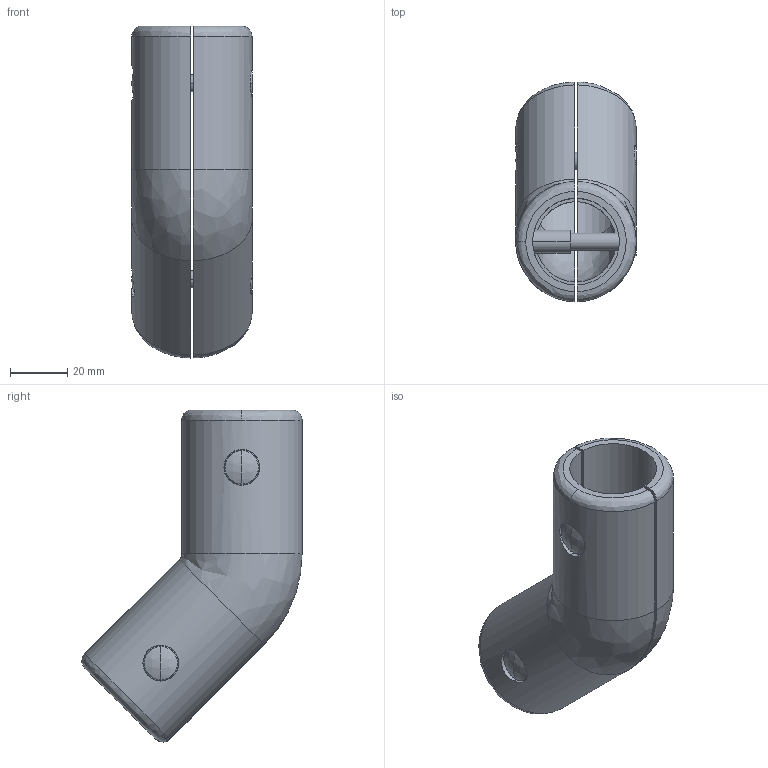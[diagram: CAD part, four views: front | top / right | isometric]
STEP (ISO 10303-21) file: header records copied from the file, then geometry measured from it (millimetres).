
FILE_DESCRIPTION (( 'STEP AP214' ), '1' );
FILE_NAME ('31000410027.STEP', '2024-09-02T09:39:37', ( '' ), ( '' ), 'SwSTEP 2.0', 'SolidWorks 2016', '' );
FILE_SCHEMA (( 'AUTOMOTIVE_DESIGN' ));
Length unit declared in the file: millimetre
Products named in the file (5): 2370_Schale 1; 31000410027; DIN 6912  (Regelgewinde) M6 x 25_1; 2370_Schale 2; 635179_H³lsenmutter_1
Assembly tree (6 placements, depth 2):
  31000410027
    2370_Schale 1
    2370_Schale 2
    635179_H³lsenmutter_1  x2
    DIN 6912  (Regelgewinde) M6 x 25_1  x2
Bounding box: 42 x 76.81 x 115.81 mm (x, y, z)
Volume: 81546.6 mm3; surface area: 34158.2 mm2
Topology: 6 solids, 6 shells, 129 faces, 312 edges, 198 vertices
Faces by surface type: cylinder 53, plane 38, cone 20, bspline 14, sphere 4
Entity records: 4806 total; most frequent: CARTESIAN_POINT 1442, DIRECTION 458, ORIENTED_EDGE 448, EDGE_CURVE 224, AXIS2_PLACEMENT_3D 183, VERTEX_POINT 147, EDGE_LOOP 107, UNCERTAINTY_MEASURE_WITH_UNIT 105
